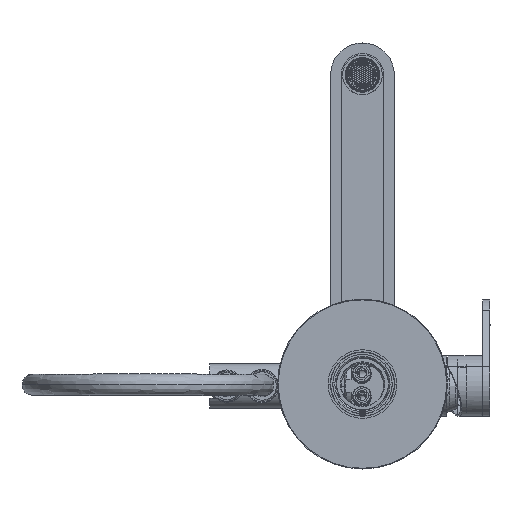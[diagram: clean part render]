
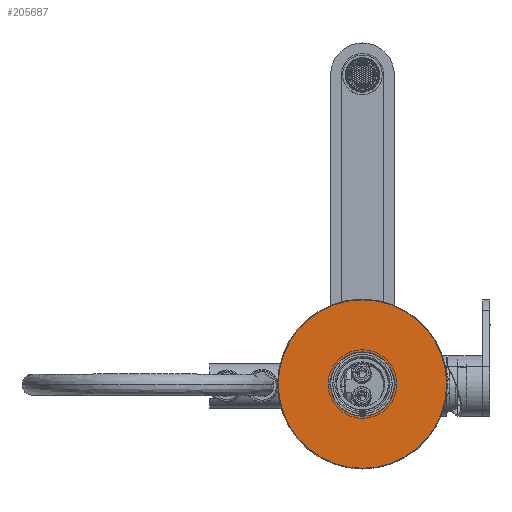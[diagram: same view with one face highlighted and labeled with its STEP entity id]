
A CAD part, top view. The second image highlights one B-rep face of the part: STEP entity #205687.
In plain terms, the highlighted planar face has unit normal (0, 0, 1).
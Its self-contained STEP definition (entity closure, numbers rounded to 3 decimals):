
#205388=CARTESIAN_POINT('',(0.,0.,570.));
#205389=DIRECTION('',(0.,0.,-1.));
#205390=DIRECTION('',(-1.,0.,0.));
#205391=AXIS2_PLACEMENT_3D('',#205388,#205389,#205390);
#205393=CARTESIAN_POINT('',(0.,0.,570.));
#205394=DIRECTION('',(0.,0.,-1.));
#205395=DIRECTION('',(1.,0.,0.));
#205396=AXIS2_PLACEMENT_3D('',#205393,#205394,#205395);
#205398=CARTESIAN_POINT('',(0.,0.,570.));
#205399=DIRECTION('',(0.,0.,1.));
#205400=DIRECTION('',(-1.,0.,0.));
#205401=AXIS2_PLACEMENT_3D('',#205398,#205399,#205400);
#205403=CARTESIAN_POINT('',(0.,0.,570.));
#205404=DIRECTION('',(0.,0.,1.));
#205405=DIRECTION('',(1.,0.,0.));
#205406=AXIS2_PLACEMENT_3D('',#205403,#205404,#205405);
#205454=CARTESIAN_POINT('',(-22.75,0.,570.));
#205455=CARTESIAN_POINT('',(22.75,0.,570.));
#205456=VERTEX_POINT('',#205454);
#205457=VERTEX_POINT('',#205455);
#205458=CARTESIAN_POINT('',(-60.,0.,570.));
#205459=CARTESIAN_POINT('',(60.,0.,570.));
#205460=VERTEX_POINT('',#205458);
#205461=VERTEX_POINT('',#205459);
#205672=CARTESIAN_POINT('',(0.,0.,570.));
#205673=DIRECTION('',(0.,0.,-1.));
#205674=DIRECTION('',(-1.,0.,0.));
#205675=AXIS2_PLACEMENT_3D('',#205672,#205673,#205674);
#205676=PLANE('',#205675);
#205677=ORIENTED_EDGE('',*,*,#205652,.T.);
#205678=ORIENTED_EDGE('',*,*,#205666,.T.);
#205679=EDGE_LOOP('',(#205677,#205678));
#205680=FACE_OUTER_BOUND('',#205679,.F.);
#205682=ORIENTED_EDGE('',*,*,#205681,.T.);
#205684=ORIENTED_EDGE('',*,*,#205683,.T.);
#205685=EDGE_LOOP('',(#205682,#205684));
#205686=FACE_BOUND('',#205685,.F.);
#205687=ADVANCED_FACE('',(#205680,#205686),#205676,.F.);
#205392=CIRCLE('',#205391,60.);
#205397=CIRCLE('',#205396,60.);
#205402=CIRCLE('',#205401,22.75);
#205407=CIRCLE('',#205406,22.75);
#205652=EDGE_CURVE('',#205460,#205461,#205392,.T.);
#205666=EDGE_CURVE('',#205461,#205460,#205397,.T.);
#205681=EDGE_CURVE('',#205456,#205457,#205402,.T.);
#205683=EDGE_CURVE('',#205457,#205456,#205407,.T.);
